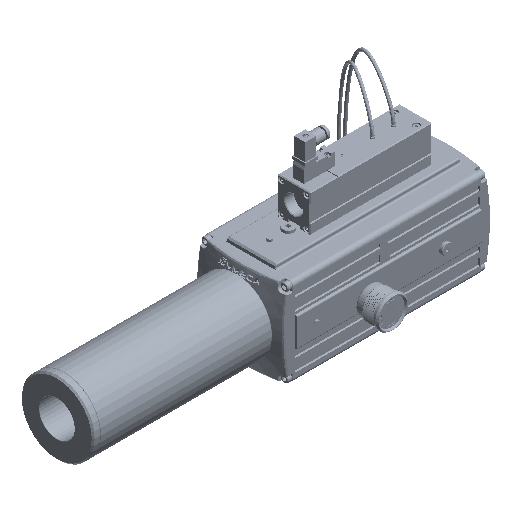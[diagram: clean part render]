
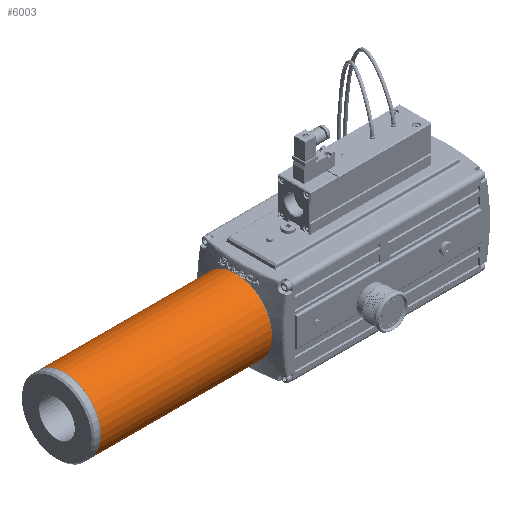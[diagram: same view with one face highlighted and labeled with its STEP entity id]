
A CAD part, isometric view. The second image highlights one B-rep face of the part: STEP entity #6003.
In plain terms, the highlighted cylindrical face has radius 49 mm (diameter 98 mm), a full revolution.
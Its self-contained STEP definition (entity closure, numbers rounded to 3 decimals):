
#6003 = ADVANCED_FACE( '', ( #13738, #13739 ), #13740, .T. );
#13738 = FACE_OUTER_BOUND( '', #25247, .T. );
#13739 = FACE_OUTER_BOUND( '', #25248, .T. );
#13740 = CYLINDRICAL_SURFACE( '', #25249, 49. );
#25247 = EDGE_LOOP( '', ( #44675 ) );
#25248 = EDGE_LOOP( '', ( #44676 ) );
#25249 = AXIS2_PLACEMENT_3D( '', #44677, #44678, #44679 );
#44675 = ORIENTED_EDGE( '', *, *, #64361, .F. );
#44676 = ORIENTED_EDGE( '', *, *, #60997, .T. );
#44677 = CARTESIAN_POINT( '', ( -126., 0., 0. ) );
#44678 = DIRECTION( '', ( -1., 0., 0. ) );
#44679 = DIRECTION( '', ( 0., 0., 1. ) );
#60997 = EDGE_CURVE( '', #72714, #72714, #72715, .T. );
#64361 = EDGE_CURVE( '', #77818, #77818, #77819, .T. );
#72714 = VERTEX_POINT( '', #91498 );
#72715 = CIRCLE( '', #91499, 49. );
#77818 = VERTEX_POINT( '', #102257 );
#77819 = CIRCLE( '', #102258, 49. );
#91498 = CARTESIAN_POINT( '', ( 105., 0., 49. ) );
#91499 = AXIS2_PLACEMENT_3D( '', #115530, #115531, #115532 );
#102257 = CARTESIAN_POINT( '', ( -125.5, 0., 49. ) );
#102258 = AXIS2_PLACEMENT_3D( '', #119333, #119334, #119335 );
#115530 = CARTESIAN_POINT( '', ( 105., 0., 0. ) );
#115531 = DIRECTION( '', ( -1., 0., 0. ) );
#115532 = DIRECTION( '', ( 0., 0., 1. ) );
#119333 = CARTESIAN_POINT( '', ( -125.5, 0., 0. ) );
#119334 = DIRECTION( '', ( -1., 0., 0. ) );
#119335 = DIRECTION( '', ( 0., 0., 1. ) );
